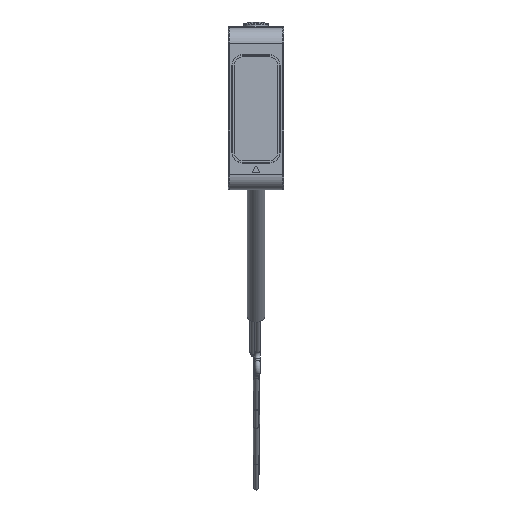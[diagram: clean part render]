
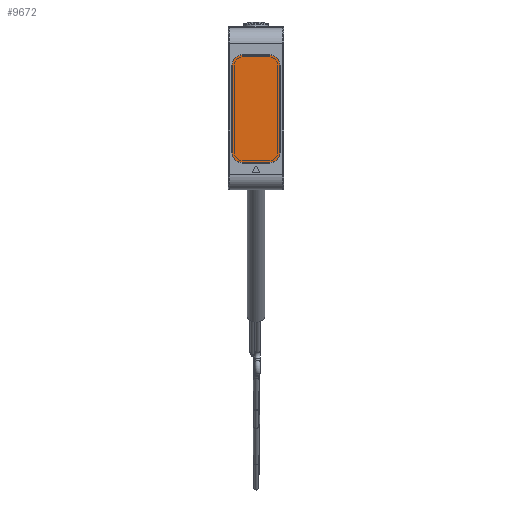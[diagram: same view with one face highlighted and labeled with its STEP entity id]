
A CAD part, top view. The second image highlights one B-rep face of the part: STEP entity #9672.
In plain terms, the highlighted planar face has unit normal (0, 0, 1).
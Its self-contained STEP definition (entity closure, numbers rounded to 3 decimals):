
#2540=FACE_OUTER_BOUND('',#12039,.T.);
#4182=LINE('',#39503,#6167);
#4185=LINE('',#39511,#6170);
#4188=LINE('',#39519,#6173);
#4191=LINE('',#39527,#6176);
#6167=VECTOR('',#32763,1.);
#6170=VECTOR('',#32772,1.);
#6173=VECTOR('',#32781,1.);
#6176=VECTOR('',#32790,1.);
#8982=PLANE('',#30347);
#9672=ADVANCED_FACE('',(#2540),#8982,.T.);
#12039=EDGE_LOOP('',(#14184,#14185,#14186,#14187,#14188,#14189,#14190,#14191));
#14184=ORIENTED_EDGE('',*,*,#25186,.F.);
#14185=ORIENTED_EDGE('',*,*,#25200,.T.);
#14186=ORIENTED_EDGE('',*,*,#25198,.F.);
#14187=ORIENTED_EDGE('',*,*,#25196,.T.);
#14188=ORIENTED_EDGE('',*,*,#25194,.F.);
#14189=ORIENTED_EDGE('',*,*,#25192,.T.);
#14190=ORIENTED_EDGE('',*,*,#25190,.F.);
#14191=ORIENTED_EDGE('',*,*,#25188,.T.);
#22368=VERTEX_POINT('',#39498);
#22369=VERTEX_POINT('',#39500);
#22370=VERTEX_POINT('',#39504);
#22371=VERTEX_POINT('',#39508);
#22372=VERTEX_POINT('',#39512);
#22373=VERTEX_POINT('',#39516);
#22374=VERTEX_POINT('',#39520);
#22375=VERTEX_POINT('',#39524);
#25186=EDGE_CURVE('',#22368,#22369,#29336,.T.);
#25188=EDGE_CURVE('',#22370,#22369,#4182,.T.);
#25190=EDGE_CURVE('',#22370,#22371,#29337,.T.);
#25192=EDGE_CURVE('',#22372,#22371,#4185,.T.);
#25194=EDGE_CURVE('',#22372,#22373,#29338,.T.);
#25196=EDGE_CURVE('',#22374,#22373,#4188,.T.);
#25198=EDGE_CURVE('',#22374,#22375,#29339,.T.);
#25200=EDGE_CURVE('',#22368,#22375,#4191,.T.);
#29336=CIRCLE('',#30335,1.95);
#29337=CIRCLE('',#30338,1.95);
#29338=CIRCLE('',#30341,1.95);
#29339=CIRCLE('',#30344,1.95);
#30335=AXIS2_PLACEMENT_3D('',#39499,#32758,#32759);
#30338=AXIS2_PLACEMENT_3D('',#39507,#32767,#32768);
#30341=AXIS2_PLACEMENT_3D('',#39515,#32776,#32777);
#30344=AXIS2_PLACEMENT_3D('',#39523,#32785,#32786);
#30347=AXIS2_PLACEMENT_3D('',#39529,#32793,#32794);
#32758=DIRECTION('',(0.,0.,-1.));
#32759=DIRECTION('',(1.,0.,0.));
#32763=DIRECTION('',(1.,0.,0.));
#32767=DIRECTION('',(0.,0.,-1.));
#32768=DIRECTION('',(0.,-1.,0.));
#32772=DIRECTION('',(0.,-1.,0.));
#32776=DIRECTION('',(0.,0.,-1.));
#32777=DIRECTION('',(-1.,0.,0.));
#32781=DIRECTION('',(-1.,0.,0.));
#32785=DIRECTION('',(0.,0.,-1.));
#32786=DIRECTION('',(0.,1.,0.));
#32790=DIRECTION('',(0.,1.,0.));
#32793=DIRECTION('',(0.,0.,1.));
#32794=DIRECTION('',(1.,0.,0.));
#39498=CARTESIAN_POINT('',(4.6,-8.5,0.));
#39499=CARTESIAN_POINT('',(2.65,-8.5,0.));
#39500=CARTESIAN_POINT('',(2.65,-10.45,0.));
#39503=CARTESIAN_POINT('',(-2.65,-10.45,0.));
#39504=CARTESIAN_POINT('',(-2.65,-10.45,0.));
#39507=CARTESIAN_POINT('',(-2.65,-8.5,0.));
#39508=CARTESIAN_POINT('',(-4.6,-8.5,0.));
#39511=CARTESIAN_POINT('',(-4.6,8.5,0.));
#39512=CARTESIAN_POINT('',(-4.6,8.5,0.));
#39515=CARTESIAN_POINT('',(-2.65,8.5,0.));
#39516=CARTESIAN_POINT('',(-2.65,10.45,0.));
#39519=CARTESIAN_POINT('',(2.65,10.45,0.));
#39520=CARTESIAN_POINT('',(2.65,10.45,0.));
#39523=CARTESIAN_POINT('',(2.65,8.5,0.));
#39524=CARTESIAN_POINT('',(4.6,8.5,0.));
#39527=CARTESIAN_POINT('',(4.6,-8.5,0.));
#39529=CARTESIAN_POINT('',(0.,0.,0.));
